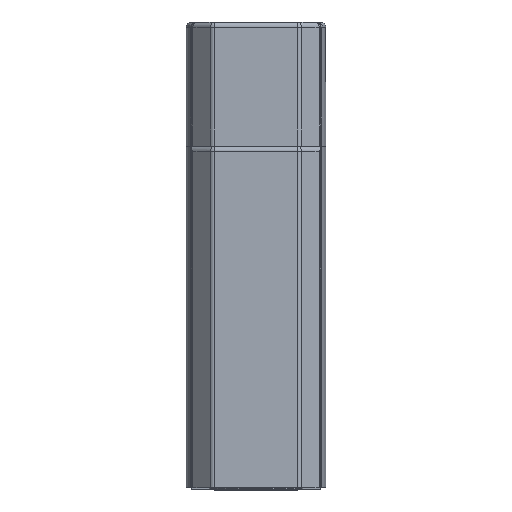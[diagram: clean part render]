
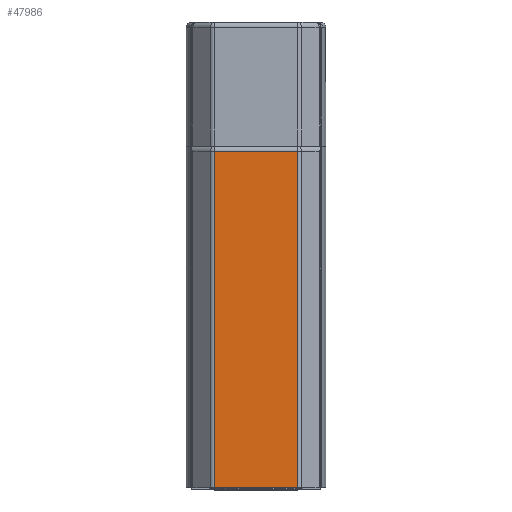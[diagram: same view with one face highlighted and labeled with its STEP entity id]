
A CAD part, top view. The second image highlights one B-rep face of the part: STEP entity #47986.
In plain terms, the highlighted planar face has unit normal (0, 0, 1).
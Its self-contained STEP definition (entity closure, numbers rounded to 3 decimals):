
#886 = LINE ( 'NONE', #36886, #4726 ) ;
#1357 = VERTEX_POINT ( 'NONE', #11176 ) ;
#2975 = VERTEX_POINT ( 'NONE', #48032 ) ;
#4726 = VECTOR ( 'NONE', #28594, 1000. ) ;
#6673 = VECTOR ( 'NONE', #18730, 1000. ) ;
#8213 = VERTEX_POINT ( 'NONE', #38687 ) ;
#9352 = CARTESIAN_POINT ( 'NONE',  ( 2.707, 0., 0. ) ) ;
#9446 = DIRECTION ( 'NONE',  ( 0., 0., 1. ) ) ;
#10335 = DIRECTION ( 'NONE',  ( 1., 0., 0. ) ) ;
#10755 = EDGE_CURVE ( 'NONE', #1357, #8213, #51632, .T. ) ;
#10788 = EDGE_CURVE ( 'NONE', #34307, #1357, #12329, .T. ) ;
#11176 = CARTESIAN_POINT ( 'NONE',  ( 10.793, 0., 0. ) ) ;
#11540 = CARTESIAN_POINT ( 'NONE',  ( 10.793, 0., 0. ) ) ;
#12031 = CARTESIAN_POINT ( 'NONE',  ( 2.707, 0., 0. ) ) ;
#12329 = LINE ( 'NONE', #28032, #40837 ) ;
#12389 = LINE ( 'NONE', #9352, #6673 ) ;
#13533 = EDGE_LOOP ( 'NONE', ( #33103, #22670, #32089, #19895 ) ) ;
#15785 = DIRECTION ( 'NONE',  ( 1., 0., 0. ) ) ;
#18066 = EDGE_CURVE ( 'NONE', #2975, #34307, #12389, .T. ) ;
#18730 = DIRECTION ( 'NONE',  ( 0., -1., 0. ) ) ;
#19895 = ORIENTED_EDGE ( 'NONE', *, *, #10755, .T. ) ;
#22670 = ORIENTED_EDGE ( 'NONE', *, *, #18066, .T. ) ;
#28032 = CARTESIAN_POINT ( 'NONE',  ( 6.75, 0., 0. ) ) ;
#28594 = DIRECTION ( 'NONE',  ( -1., 0., 0. ) ) ;
#32089 = ORIENTED_EDGE ( 'NONE', *, *, #10788, .T. ) ;
#33103 = ORIENTED_EDGE ( 'NONE', *, *, #33571, .T. ) ;
#33254 = CARTESIAN_POINT ( 'NONE',  ( 0.5, 0., 0. ) ) ;
#33571 = EDGE_CURVE ( 'NONE', #8213, #2975, #886, .T. ) ;
#33764 = PLANE ( 'NONE',  #50140 ) ;
#34307 = VERTEX_POINT ( 'NONE', #12031 ) ;
#35427 = FACE_OUTER_BOUND ( 'NONE', #13533, .T. ) ;
#36886 = CARTESIAN_POINT ( 'NONE',  ( 0.5, 32.5, 0. ) ) ;
#38687 = CARTESIAN_POINT ( 'NONE',  ( 10.793, 32.5, 0. ) ) ;
#40837 = VECTOR ( 'NONE', #15785, 1000. ) ;
#47986 = ADVANCED_FACE ( 'NONE', ( #35427 ), #33764, .T. ) ;
#48032 = CARTESIAN_POINT ( 'NONE',  ( 2.707, 32.5, 0. ) ) ;
#48505 = VECTOR ( 'NONE', #52280, 1000. ) ;
#50140 = AXIS2_PLACEMENT_3D ( 'NONE', #33254, #9446, #10335 ) ;
#51632 = LINE ( 'NONE', #11540, #48505 ) ;
#52280 = DIRECTION ( 'NONE',  ( 0., 1., 0. ) ) ;
